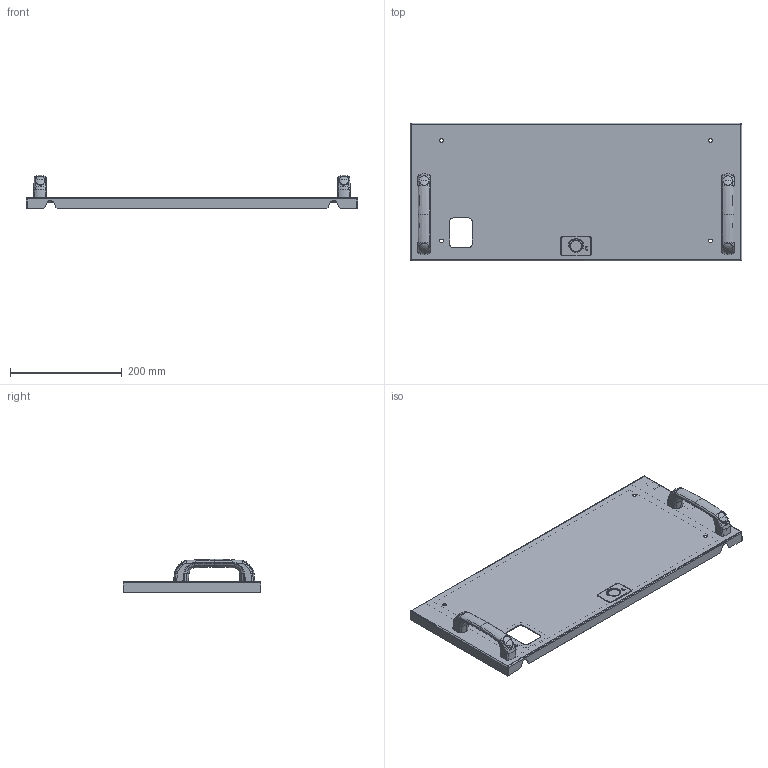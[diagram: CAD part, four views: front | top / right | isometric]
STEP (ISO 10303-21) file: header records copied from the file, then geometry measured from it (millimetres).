
FILE_DESCRIPTION(('CAx-IF Rec.Pracs.---Model Styling and Organization---1.2---2011-12-15','CAx-IF Rec.Pracs.---Geometric and Assembly Validation Properties---4.1---2014-06-16','CAx-IF Rec.Pracs.---PMI Polyline Presentation---2.0---2013-05-24'),'2;1');
FILE_NAME('R5M2W5M1BF.stp','2021-05-05T12:27:39+03:00',(''),(''),'STEP Interface 4.4 by CT CoreTechnologie','3D_Evolution4.4 by CT CoreTechnologie','');
FILE_SCHEMA(('AUTOMOTIVE_DESIGN { 1 0 10303 214 1 1 1 1 }'));
Length unit declared in the file: millimetre
Products named in the file (16): R5M2W5M1BF; RB.1166.00.00.0 ÑÁ_-02; RB.1166.00.05.0; RB.1166.00.01.0_-02; RB.1166.00.02.0_¢ à 1; RB.1166.00.04.0_-00; PF 7x14 RAMmcc 2.0_51; AC00C061_AC00C061; Ì6õ12-A5100231_straight; PF 3.5x7 RAMmcc 2.0_00; 4.444.002(1); PR.DT477.120.02-poprawa; PR.DT477.120.01; countersunk flat head cross recess screw_din_DIN EN ISO 7046-1 - M6 x 16 - Z - 16N; 4.444.002(2); AC00C148_AC00C148
Assembly tree (26 placements, depth 3):
  R5M2W5M1BF
    RB.1166.00.00.0 ÑÁ_-02
      RB.1166.00.05.0  x3
      RB.1166.00.01.0_-02
      RB.1166.00.02.0_¢ à 1
      RB.1166.00.04.0_-00
      PF 7x14 RAMmcc 2.0_51
      AC00C061_AC00C061
      Ì6õ12-A5100231_straight
      PF 3.5x7 RAMmcc 2.0_00
    4.444.002(1)
      PR.DT477.120.02-poprawa  x2
      PR.DT477.120.01
    countersunk flat head cross recess screw_din_DIN EN ISO 7046-1 - M6 x 16 - Z - 16N  x4
    4.444.002(2)
      PR.DT477.120.02-poprawa  x2
      PR.DT477.120.01
    AC00C148_AC00C148  x3
Bounding box: 594 x 247 x 60 mm (x, y, z)
Surface area: 460620.3 mm2 (no closed solid volume)
Topology: 0 solids, 32 shells, 1571 faces, 3958 edges, 2423 vertices
Faces by surface type: bspline 692, plane 552, cylinder 327
Entity records: 31149 total; most frequent: CARTESIAN_POINT 12679, ORIENTED_EDGE 3810, DIRECTION 3589, EDGE_CURVE 1905, AXIS2_PLACEMENT_3D 1320, VERTEX_POINT 1184, VECTOR 949, LINE 949
